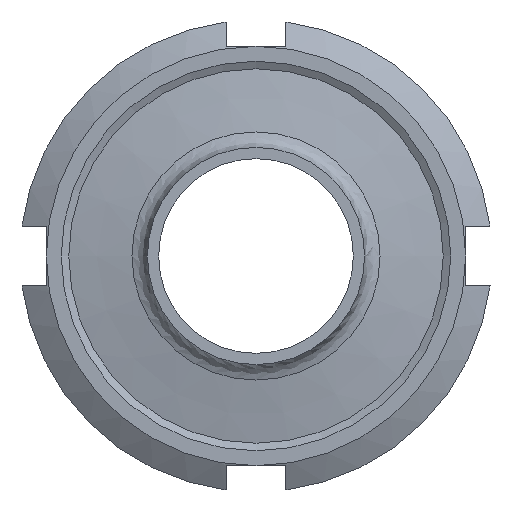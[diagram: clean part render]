
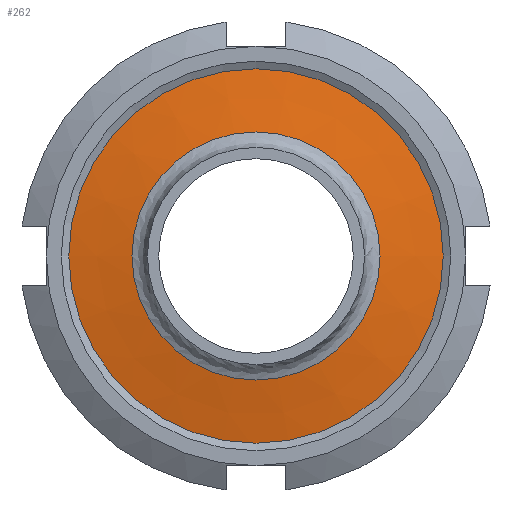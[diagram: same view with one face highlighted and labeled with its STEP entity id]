
A CAD part, front view. The second image highlights one B-rep face of the part: STEP entity #262.
In plain terms, the highlighted conical face has half-angle 80 degrees and reference radius 20.25 mm.
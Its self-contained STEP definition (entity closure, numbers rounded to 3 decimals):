
#160=CARTESIAN_POINT('',(26.0,-1.479,0.0));
#161=VERTEX_POINT('',#160);
#162=CARTESIAN_POINT('',(0.0,-1.479,0.0));
#163=DIRECTION('',(0.0,-1.0,0.0));
#164=DIRECTION('',(1.0,0.0,0.0));
#165=AXIS2_PLACEMENT_3D('',#162,#163,#164);
#166=CIRCLE('',#165,26.0);
#167=EDGE_CURVE('',#161,#161,#166,.T.);
#228=CARTESIAN_POINT('',(16.566,-3.143,0.));
#229=VERTEX_POINT('',#228);
#230=CARTESIAN_POINT('',(0.0,-3.143,0.));
#231=DIRECTION('',(0.0,-1.0,0.0));
#232=DIRECTION('',(-1.0,0.0,0.0));
#233=AXIS2_PLACEMENT_3D('',#230,#231,#232);
#234=CIRCLE('',#233,16.566);
#235=EDGE_CURVE('',#229,#229,#234,.T.);
#251=CARTESIAN_POINT('',(0.0,-2.493,0.0));
#252=DIRECTION('',(0.0,1.0,0.0));
#253=DIRECTION('',(1.0,0.0,0.0));
#254=AXIS2_PLACEMENT_3D('',#251,#252,#253);
#255=CONICAL_SURFACE('',#254,20.25,80.);
#256=ORIENTED_EDGE('',*,*,#167,.T.);
#257=EDGE_LOOP('',(#256));
#258=FACE_OUTER_BOUND('',#257,.T.);
#259=ORIENTED_EDGE('',*,*,#235,.F.);
#260=EDGE_LOOP('',(#259));
#261=FACE_BOUND('',#260,.T.);
#262=ADVANCED_FACE('',(#258,#261),#255,.T.);
